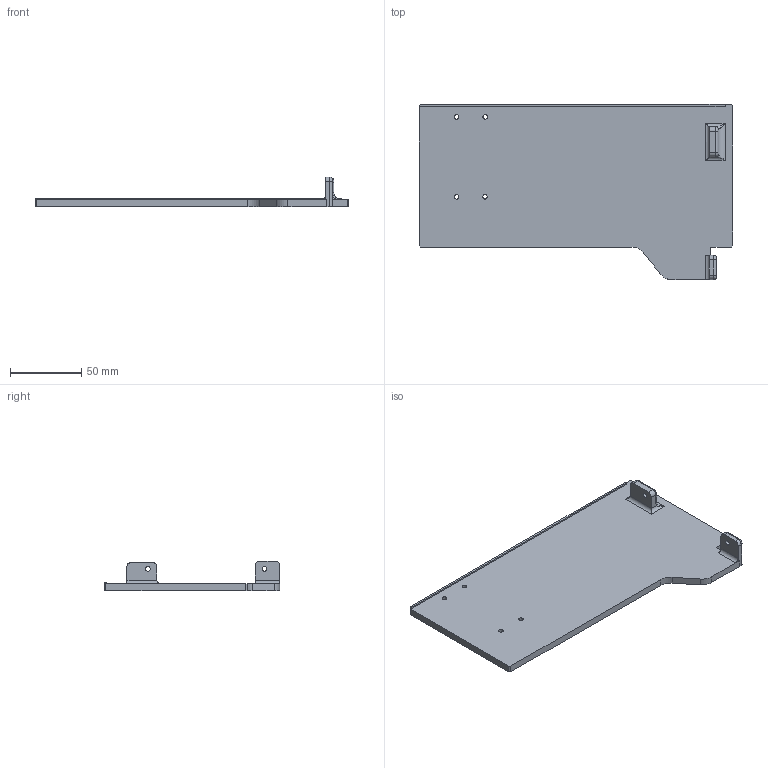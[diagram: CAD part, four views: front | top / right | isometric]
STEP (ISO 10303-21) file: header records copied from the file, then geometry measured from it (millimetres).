
FILE_DESCRIPTION(/* description */ (''),/* implementation_level */ '2;1');
FILE_NAME(/* name */ 'D:/Down/Druck/Tisch/DachGrundplatteV58.step',/* time_stamp */ '2022-02-09T16:38:28+07:00',/* author */ (''),/* organization */ (''),/* preprocessor_version */ 'ST-DEVELOPER v18.1',/* originating_system */ 'Autodesk Translation Framework v10.13.0.1454',/* authorisation */ '');
FILE_SCHEMA (('AUTOMOTIVE_DESIGN { 1 0 10303 214 3 1 1 }'));
Length unit declared in the file: millimetre
Products named in the file (1): DachGrundplatte
Bounding box: 219.97 x 122.84 x 21 mm (x, y, z)
Volume: 118395.9 mm3; surface area: 51353.5 mm2
Topology: 1 solids, 1 shells, 67 faces, 178 edges, 112 vertices
Faces by surface type: plane 36, cylinder 23, bspline 6, torus 2
Full cylindrical faces by diameter (mm): 3.2 x4, 3.4 x2
Entity records: 2266 total; most frequent: CARTESIAN_POINT 536, ORIENTED_EDGE 352, DIRECTION 346, EDGE_CURVE 176, LINE 122, VECTOR 122, VERTEX_POINT 112, AXIS2_PLACEMENT_3D 112
